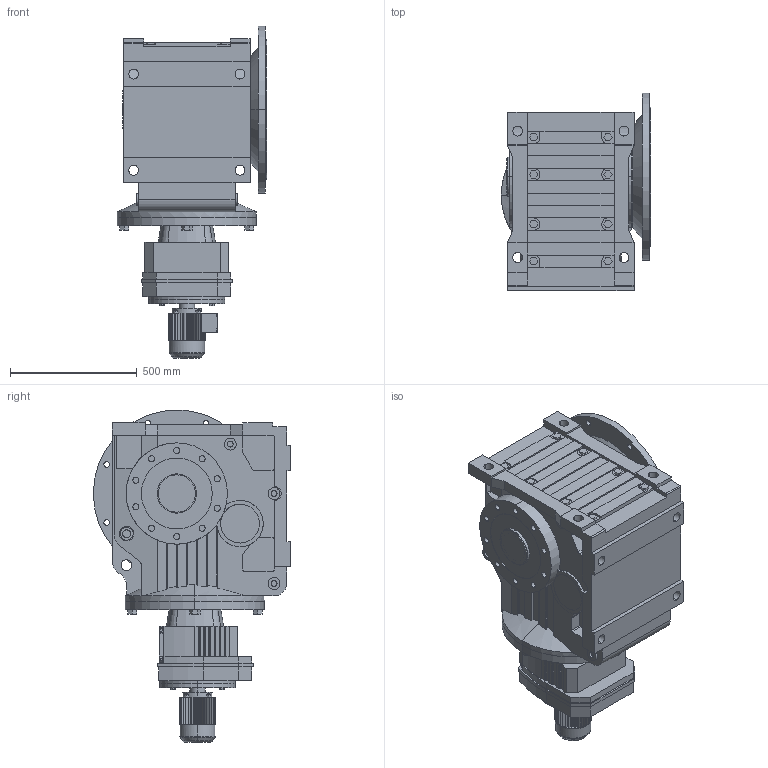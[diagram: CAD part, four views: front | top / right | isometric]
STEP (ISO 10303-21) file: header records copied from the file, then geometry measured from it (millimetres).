
FILE_DESCRIPTION(('Open CASCADE Model'),'2;1');
FILE_NAME('Open CASCADE Shape Model','2021-07-24T17:53:51',('Author'),( 'Open CASCADE'),'Open CASCADE STEP processor 6.3','Open CASCADE 6.3' ,'Unknown');
FILE_SCHEMA(('AUTOMOTIVE_DESIGN_CC2 { 1 2 10303 214 -1 1 5 4 }'));
Length unit declared in the file: millimetre
Products named in the file (6): 1_KAF157R97DT80-A; KA127‵157_157.step; 萇儂_300-DT80-231-295-145-122.step; R_157_97.step; す瑩諾陑粣K_157.step; 楊擘K_157.step
Assembly tree (5 placements, depth 2):
  1_KAF157R97DT80-A
    KA127‵157_157.step
    萇儂_300-DT80-231-295-145-122.step
    R_157_97.step
    す瑩諾陑粣K_157.step
    楊擘K_157.step
Bounding box: 591 x 780 x 1312 mm (x, y, z)
Volume: 227205765.8 mm3; surface area: 5664096.6 mm2
Topology: 5 solids, 5 shells, 1184 faces, 3116 edges, 2039 vertices
Faces by surface type: plane 792, cylinder 370, cone 18, torus 4
Entity records: 83993 total; most frequent: CARTESIAN_POINT 24700, DIRECTION 10170, ORIENTED_EDGE 6232, PCURVE 6232, DEFINITIONAL_REPRESENTATION 6232, LINE 5569, VECTOR 5569, EDGE_CURVE 3116
